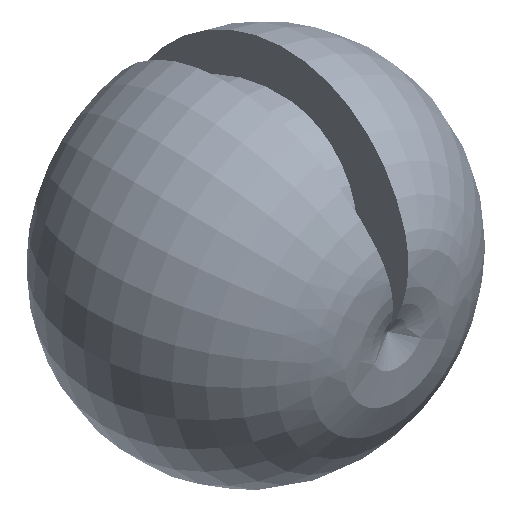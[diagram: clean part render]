
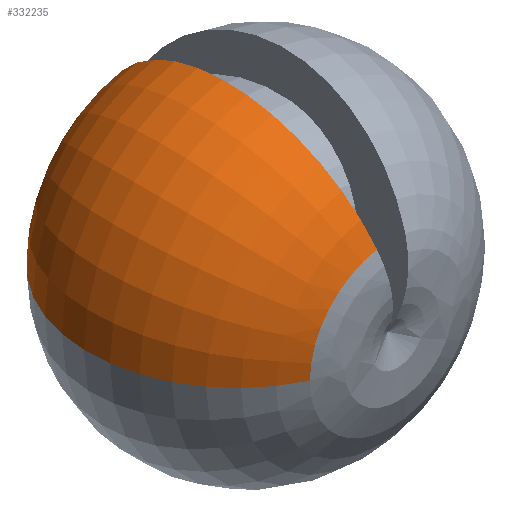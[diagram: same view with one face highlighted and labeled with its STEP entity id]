
A CAD part, isometric view. The second image highlights one B-rep face of the part: STEP entity #332235.
In plain terms, the highlighted toroidal (fillet/blend) face has major radius 217 mm and minor radius 1787.56 mm.
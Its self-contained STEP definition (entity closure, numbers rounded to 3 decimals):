
#263491 = FACE_OUTER_BOUND ( 'NONE', #424733, .T. ) ;
#263738 = DIRECTION ( 'NONE',  ( 0., -1., 0. ) ) ;
#263795 = DIRECTION ( 'NONE',  ( 0., 0., -1. ) ) ;
#263856 = CARTESIAN_POINT ( 'NONE',  ( 0., 445., 0. ) ) ;
#285862 = CARTESIAN_POINT ( 'NONE',  ( 0., -1175.079, 0. ) ) ;
#285905 = DIRECTION ( 'NONE',  ( 0., -1., 0. ) ) ;
#285935 = DIRECTION ( 'NONE',  ( 0., 0., -1. ) ) ;
#288870 = CIRCLE ( 'NONE', #288953, 1787.559 ) ;
#288921 = CIRCLE ( 'NONE', #288930, 972.455 ) ;
#288930 = AXIS2_PLACEMENT_3D ( 'NONE', #285862, #285905, #285935 ) ;
#288953 = AXIS2_PLACEMENT_3D ( 'NONE', #314361, #314371, #314405 ) ;
#288972 = CIRCLE ( 'NONE', #289008, 1787.559 ) ;
#289008 = AXIS2_PLACEMENT_3D ( 'NONE', #315233, #315327, #315287 ) ;
#293058 = VERTEX_POINT ( 'NONE', #337494 ) ;
#293247 = VERTEX_POINT ( 'NONE', #338065 ) ;
#293402 = VERTEX_POINT ( 'NONE', #338087 ) ;
#314361 = CARTESIAN_POINT ( 'NONE',  ( -213.703, 445., -37.682 ) ) ;
#314371 = DIRECTION ( 'NONE',  ( 0.174, 0., -0.985 ) ) ;
#314405 = DIRECTION ( 'NONE',  ( -0.985, 0., -0.174 ) ) ;
#315233 = CARTESIAN_POINT ( 'NONE',  ( 0., 445., -217. ) ) ;
#315287 = DIRECTION ( 'NONE',  ( 0., 0., 1. ) ) ;
#315327 = DIRECTION ( 'NONE',  ( -1., 0., 0. ) ) ;
#326784 = EDGE_CURVE ( 'NONE', #293402, #293247, #288921, .T. ) ;
#326962 = EDGE_CURVE ( 'NONE', #293402, #293058, #288870, .T. ) ;
#327160 = EDGE_CURVE ( 'NONE', #293058, #293247, #288972, .T. ) ;
#332235 = ADVANCED_FACE ( 'NONE', ( #263491 ), #476488, .T. ) ;
#337494 = CARTESIAN_POINT ( 'NONE',  ( 0., 2219.339, 0. ) ) ;
#338065 = CARTESIAN_POINT ( 'NONE',  ( 0., -1175.079, -972.455 ) ) ;
#338087 = CARTESIAN_POINT ( 'NONE',  ( -957.681, -1175.079, -168.865 ) ) ;
#424733 = EDGE_LOOP ( 'NONE', ( #453559, #453512, #453152 ) ) ;
#453152 = ORIENTED_EDGE ( 'NONE', *, *, #326784, .F. ) ;
#453512 = ORIENTED_EDGE ( 'NONE', *, *, #327160, .T. ) ;
#453559 = ORIENTED_EDGE ( 'NONE', *, *, #326962, .T. ) ;
#476488 = TOROIDAL_SURFACE ( 'NONE', #476503, 217., 1787.559 ) ;
#476503 = AXIS2_PLACEMENT_3D ( 'NONE', #263856, #263738, #263795 ) ;
